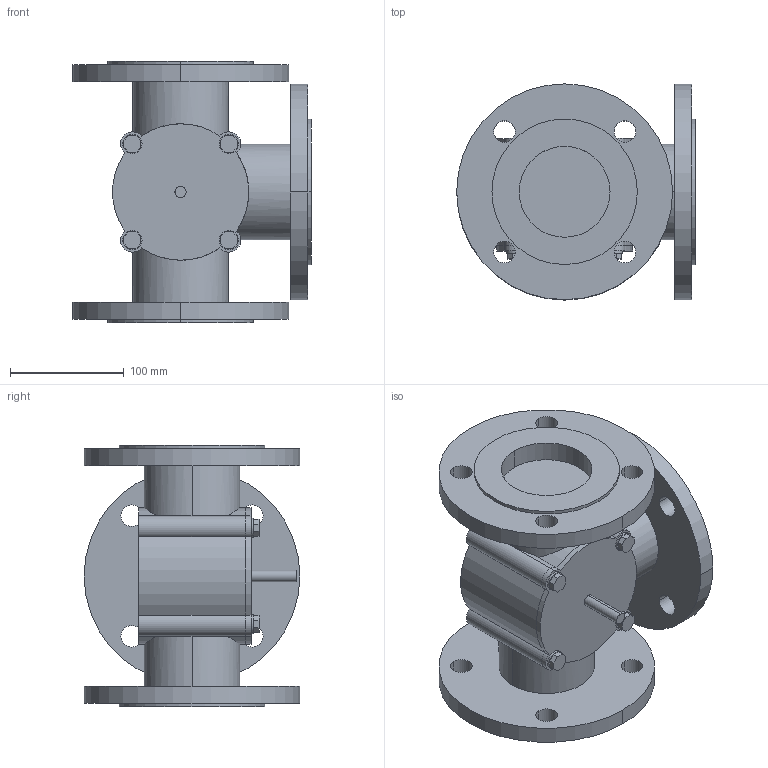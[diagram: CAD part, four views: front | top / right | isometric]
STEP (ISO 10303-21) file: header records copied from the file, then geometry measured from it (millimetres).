
FILE_DESCRIPTION((''),'2;1');
FILE_NAME('KL000053.dwg.stp','2006-10-04T11:31:42',(''),(''),'Mechanical Desktop 2006','Mechanical Desktop 2006',', , ');
FILE_SCHEMA(('AUTOMOTIVE_DESIGN { 1 2 10303 214 0 1 1 1 }'));
Length unit declared in the file: millimetre
Products named in the file (1): Product
Bounding box: 210 x 190 x 230 mm (x, y, z)
Volume: 2942542.8 mm3; surface area: 352998.7 mm2
Topology: 17 solids, 17 shells, 164 faces, 381 edges, 254 vertices
Faces by surface type: cylinder 83, bspline 41, plane 40
Entity records: 5468 total; most frequent: CARTESIAN_POINT 1613, DIRECTION 771, ORIENTED_EDGE 762, EDGE_CURVE 381, AXIS2_PLACEMENT_3D 290, VERTEX_POINT 254, EDGE_LOOP 197, VECTOR 191
